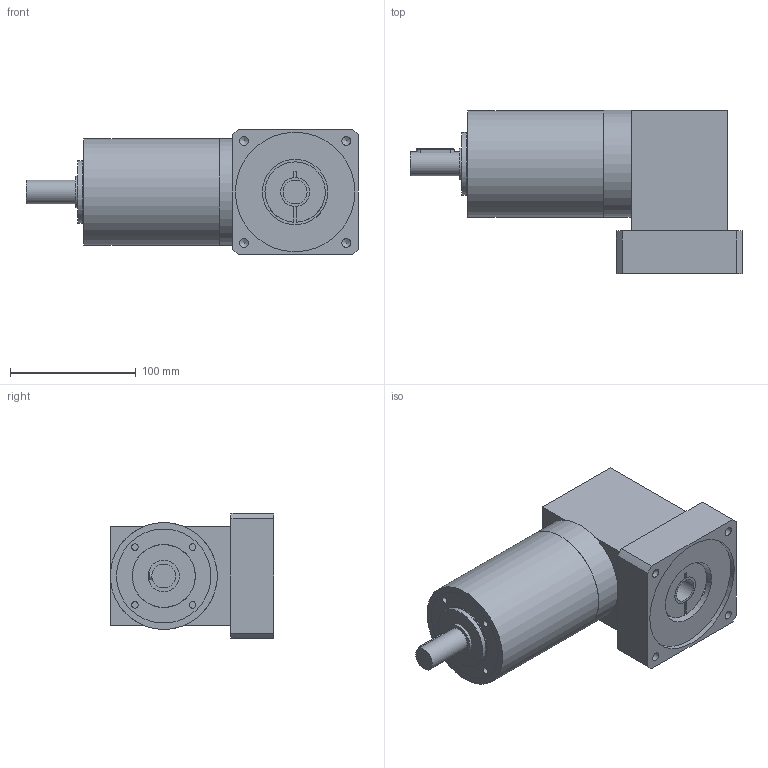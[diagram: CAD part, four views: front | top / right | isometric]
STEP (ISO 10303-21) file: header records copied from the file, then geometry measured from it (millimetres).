
FILE_DESCRIPTION(/* description */ (''),/* implementation_level */ '2;1');
FILE_NAME(/* name */ 'E0001806MP261206090335',/* time_stamp */ '2006-12-26T09:07:32+01:00',/* author */ (''),/* organization */ (''),/* preprocessor_version */ 'ST-DEVELOPER v9',/* originating_system */ 'EDS PLM SOLUTIONS - UNIGRAPHICS NX 2.0',/* authorisation */ '');
FILE_SCHEMA (('CONFIG_CONTROL_DESIGN'));
Length unit declared in the file: millimetre
Products named in the file (1): E0001806MP261206090335_u3d
Bounding box: 264.05 x 130 x 100 mm (x, y, z)
Volume: 1869317.6 mm3; surface area: 198896.5 mm2
Topology: 10 solids, 10 shells, 121 faces, 257 edges, 170 vertices
Faces by surface type: plane 54, cylinder 47, cone 17, torus 3
Full cylindrical faces by diameter (mm): 5.188 x10, 6.2 x1, 6.5 x1, 6.985 x4, 10.5 x1, 13.75 x1, 19 x2, 23 x1, 25 x2, 50 x2, 52 x1, 63.9 x1, 67.96 x1, 68 x2, 70.9 x1, 74.95 x1, 75 x2, 85 x2, 95 x1
Entity records: 2916 total; most frequent: DIRECTION 512, CARTESIAN_POINT 505, ORIENTED_EDGE 344, AXIS2_PLACEMENT_3D 221, EDGE_LOOP 198, EDGE_CURVE 172, VERTEX_POINT 150, FACE_BOUND 129
